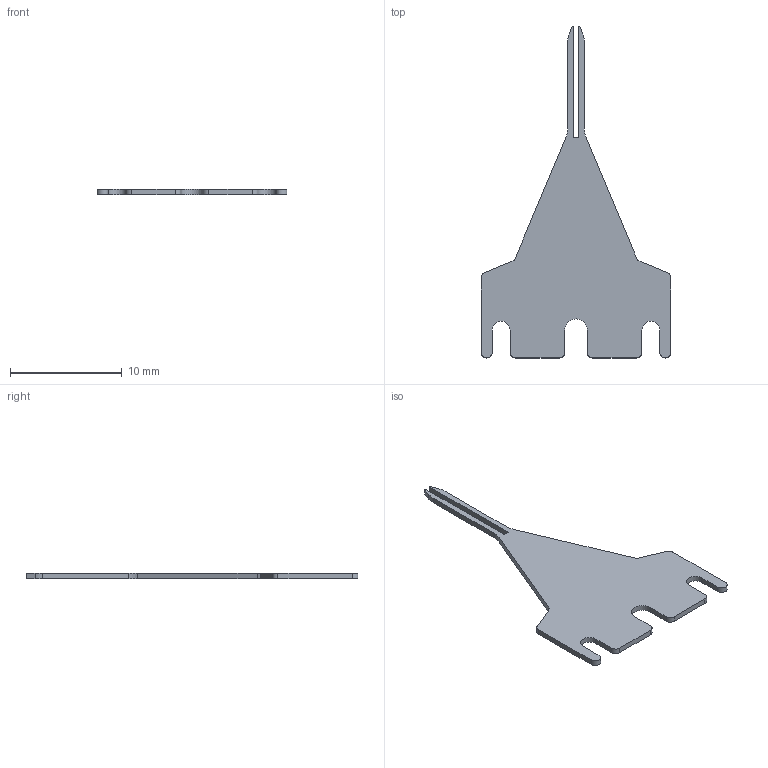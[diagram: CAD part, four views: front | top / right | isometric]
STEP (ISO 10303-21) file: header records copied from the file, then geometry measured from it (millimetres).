
FILE_DESCRIPTION (( 'STEP AP214' ), '1' );
FILE_NAME ('YGPU-P01 峚標ヵ-諦誧換菰.STEP', '2026-03-23T03:29:21', ( '' ), ( '' ), 'SwSTEP 2.0', 'SolidWorks 2022', '' );
FILE_SCHEMA (( 'AUTOMOTIVE_DESIGN' ));
Length unit declared in the file: millimetre
Products named in the file (1): YGPU-P01 微夹钳-客户传递
Bounding box: 17 x 29.72 x 0.5 mm (x, y, z)
Volume: 104 mm3; surface area: 475.6 mm2
Topology: 1 solids, 1 shells, 44 faces, 126 edges, 84 vertices
Faces by surface type: plane 25, cylinder 19
Entity records: 1482 total; most frequent: CARTESIAN_POINT 255, DIRECTION 254, ORIENTED_EDGE 252, EDGE_CURVE 126, LINE 88, VECTOR 88, VERTEX_POINT 84, AXIS2_PLACEMENT_3D 83
